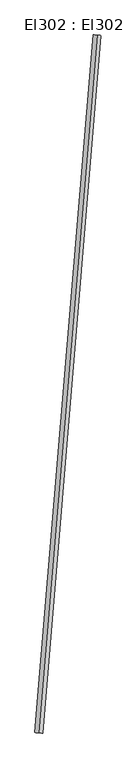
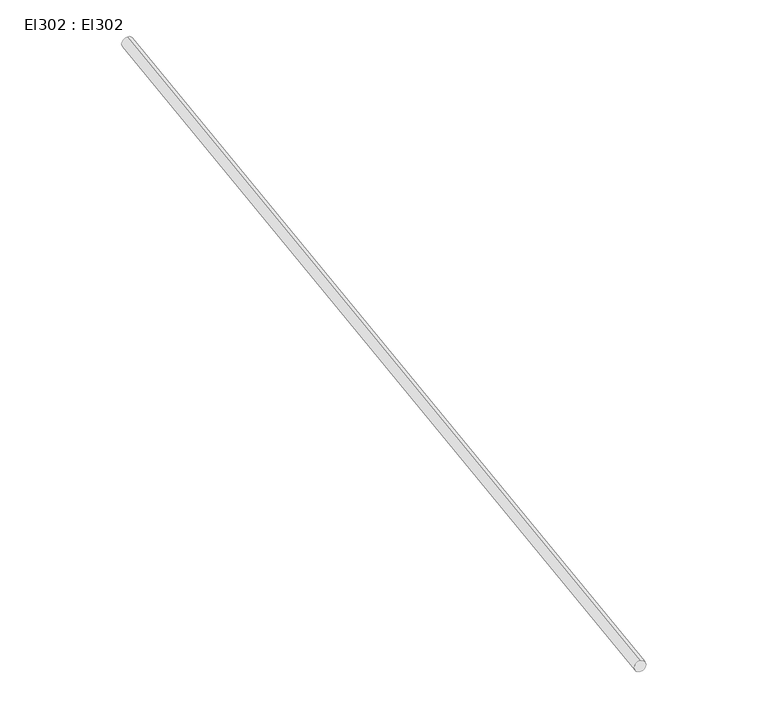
"""IFC4 building model written with IfcOpenShell, lengths in millimetres: cable carrier segment geometry, El302 : El302."""

from ifc_helpers import new_model, si_unit, point, frame, frame_2d, origin, place, context, project, spatial, circle_curve, trimmed, segment, composite_curve, outline, extrude, source, transform, mapped, element, save


def el302_el302_b86d1c2f(model_context):
    return source(origin(), model_context, "Body", "SweptSolid", [
        extrude(outline(composite_curve([segment(trimmed(circle_curve(frame_2d((0.0, -9.5)), 9.5), [point((0.0, -19.0))], [point((0.0, 0.0))], False, "CARTESIAN"), True, "CONTINUOUS"), segment(trimmed(circle_curve(frame_2d((0.0, -9.5)), 9.5), [point((0.0, 0.0))], [point((0.0, -19.0))], False, "CARTESIAN"), True, "CONTINUOUS")], self_intersect=False)), frame((22221.2275, 14766.298, 2959.5), z_axis=(0.08339683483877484, 0.9965164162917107, 0.0), x_axis=(-0.9965164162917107, 0.08339683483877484, 0.0)), (0.0, 0.0, 1.0), 1728.43),
    ])


if __name__ == "__main__":
    model = new_model("IFC4")
    model_context = context("Model", 3, world=origin())
    ifc_project = project(units=[si_unit("LENGTHUNIT", "METRE", prefix="MILLI")], contexts=[model_context])
    site = spatial("IfcSite", under=ifc_project)
    building = spatial("IfcBuilding", under=site)
    placement = place(None, origin())
    el302_el302_shape = el302_el302_b86d1c2f(model_context)
    element("IfcCableCarrierSegment", 1, ObjectType="El302 : El302", at=placement, inside=building, context=model_context, shape_type="MappedRepresentation", body=[
        mapped(el302_el302_shape, transform((0.0, 0.0, 0.0), x_axis=(1.0, 0.0, 0.0), y_axis=(0.0, 1.0, 0.0), z_axis=(0.0, 0.0, 1.0))),
    ])
    save(model, "model.ifc")
